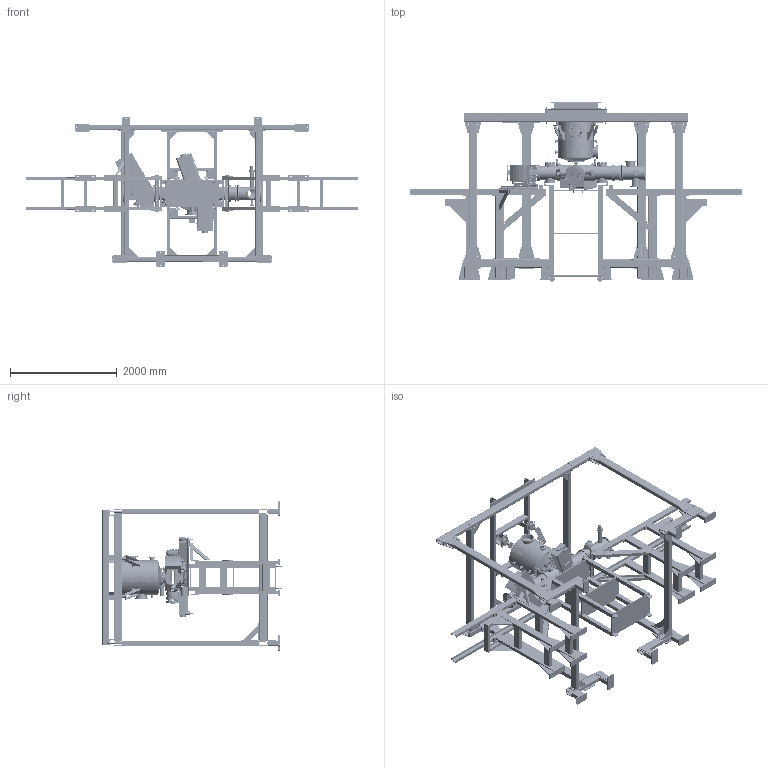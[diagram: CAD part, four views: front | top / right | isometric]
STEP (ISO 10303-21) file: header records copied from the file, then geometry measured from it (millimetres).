
FILE_DESCRIPTION((' '),'2;1');
FILE_NAME( '042700-29.03.2026.stp', '2026-04-12T22:13:22', (' '), ('--- ---'), ' V2026.1 Dec 31 2025', ' 2026 (c)', ' ');
FILE_SCHEMA(('AP242_MANAGED_MODEL_BASED_3D_ENGINEERING_MIM_LF { 1 0 10303 442 1 1 4 }'));
Length unit declared in the file: millimetre
Products named in the file (286): 042701; 900002(008); 900187(008); 900056(036); 900033(083); 900006(077); 900006(080); Mirror042642; 042642; 042641; 042643; 042643--1; 900006(078); 042544; 900006(065); 900057(014); 900057(011); 900019(073); 900019(074); 900050(006); 900050(003); 900057(005); 900050(004); 900050(005); 900050(007); 900057(008); 900057(017); 900050(008); 900261(004); 900261(007); 900006(069); Kugel; Body; 900056(037); VAb_LD 200-150 O; VAb_LD 200-150 O--1; VAb_LD 200-150 O--2; VAb_LD 200-150 O--3; VAb_LD 200-150 O--4; VAb_LD 200-150 O--5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
Assembly tree (1650 placements, depth 5):
  Compo-1
    042701
    039381(007)
      900002(008)  x295
      900187(008)  x478
      900056(036)  x8
      042643
        900033(083)  x2
        900006(077)  x2
        900006(080)  x4
        Mirror042642
        042642
        042641
      042643--1
        900033(083)  x2
        900006(077)  x2
        900006(080)  x4
        Mirror042642
        042642
        042641
      900006(078)  x8
      042544
      900006(065)  x12
      900057(014)  x4
      900057(011)  x2
      900019(073)  x32
      900019(074)  x127
      900050(006)  x2
      900050(003)  x2
      900057(005)  x2
      900050(004)
      900050(005)
      900050(007)
      900057(008)
      900057(017)
      900050(008)  x2
      900261(004)  x2
      900261(007)  x4
      900006(069)  x4
      Kugel  x4
      Body  x4
      900056(037)  x96
      040657(001)
        VAb_LD 200-150 O
        VAb_LD 200-150 O--1
        VAb_LD 200-150 O--2
        VAb_LD 200-150 O--3
        VAb_LD 200-150 O--4
        VAb_LD 200-150 O--5
        VAb_LD 200-150 O--6
        VAb_LD 200-150 O--7
        VAb_LD 200-150 O--8
        VAb_LD 200-150 O--9
        VAb_LD 200-150 O--10
        VAb_LD 200-150 O--11
        VAb_LD 200-150 O--12
        VAb_LD 200-150 O--13
        VAb_LD 200-150 O--14
        VAb_LD 200-150 O--15
        VAb_LD 200-150 O--16
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Bounding box: 6220 x 3354.81 x 2815 mm (x, y, z)
Volume: 504670362.8 mm3; surface area: 104292924.8 mm2
Topology: 1634 solids, 1650 shells, 30479 faces, 70955 edges, 44983 vertices
Faces by surface type: plane 14197, cylinder 10320, cone 5087, extrusion 556, torus 313, sphere 4, revolution 2
Full cylindrical faces by diameter (mm): 1 x12, 1.5 x16, 2 x4, 2.1 x8, 2.459 x20, 3 x6, 3.1 x4, 3.2 x8, 3.242 x6, 4 x2, 4.3 x24, 4.8 x4, 5 x68, 6 x34, 6.4 x32, 6.6 x118, 6.65 x343, 6.8 x280, 7 x26, 8 x938, 8.376 x4, 8.4 x1294, 8.5 x15, 9 x216, 10 x43, 10.2 x4, 11 x12, 11.63 x183, 12 x95, 13 x403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
Entity records: 274235 total; most frequent: CARTESIAN_POINT 60718, DIRECTION 42925, ORIENTED_EDGE 34582, EDGE_CURVE 17291, AXIS2_PLACEMENT_3D 16545, EDGE_LOOP 14289, VERTEX_POINT 13005, VECTOR 9833
